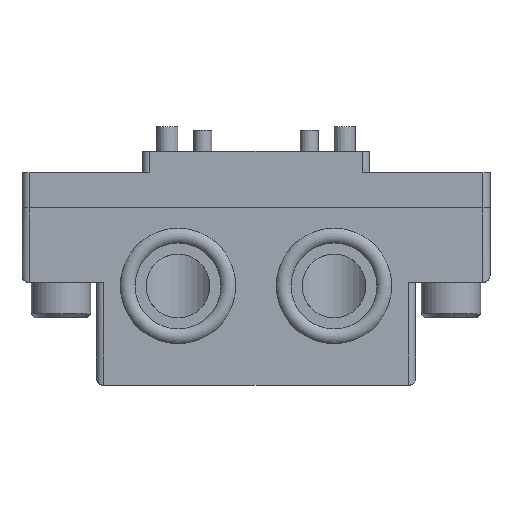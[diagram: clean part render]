
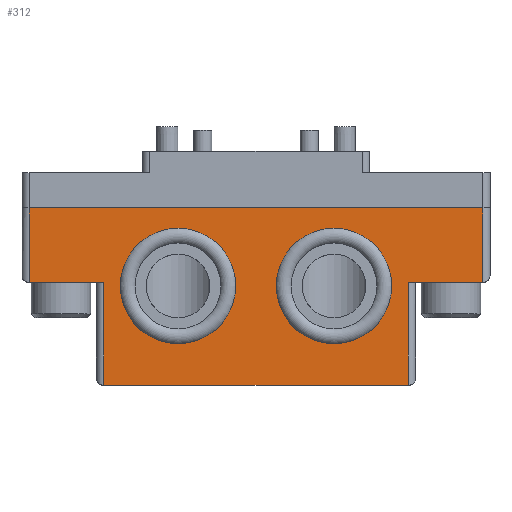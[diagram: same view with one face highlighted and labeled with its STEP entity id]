
A CAD part, top view. The second image highlights one B-rep face of the part: STEP entity #312.
In plain terms, the highlighted planar face has unit normal (0, 0, 1).
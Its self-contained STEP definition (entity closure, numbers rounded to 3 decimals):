
#312=ADVANCED_FACE('',(#717,#718,#719),#720,.T.);
#717=FACE_BOUND('',#1206,.T.);
#718=FACE_BOUND('',#1207,.T.);
#719=FACE_OUTER_BOUND('',#1208,.T.);
#720=PLANE('',#1209);
#1206=EDGE_LOOP('',(#2013));
#1207=EDGE_LOOP('',(#2014));
#1208=EDGE_LOOP('',(#2015,#2016,#2017,#2018,#2019,#2020,#2021,#2022));
#1209=AXIS2_PLACEMENT_3D('',#2023,#2024,#2025);
#2013=ORIENTED_EDGE('',*,*,#2459,.F.);
#2014=ORIENTED_EDGE('',*,*,#2474,.F.);
#2015=ORIENTED_EDGE('',*,*,#2655,.T.);
#2016=ORIENTED_EDGE('',*,*,#2682,.T.);
#2017=ORIENTED_EDGE('',*,*,#2677,.T.);
#2018=ORIENTED_EDGE('',*,*,#2661,.T.);
#2019=ORIENTED_EDGE('',*,*,#2610,.T.);
#2020=ORIENTED_EDGE('',*,*,#2584,.T.);
#2021=ORIENTED_EDGE('',*,*,#2514,.T.);
#2022=ORIENTED_EDGE('',*,*,#2457,.T.);
#2023=CARTESIAN_POINT('',(-33.0,-33.0,9.5));
#2024=DIRECTION('',(0.0,0.0,1.0));
#2025=DIRECTION('',(1.0,0.0,0.0));
#2457=EDGE_CURVE('',#2838,#2842,#2844,.T.);
#2459=EDGE_CURVE('',#2846,#2846,#2847,.T.);
#2474=EDGE_CURVE('',#2870,#2870,#2871,.T.);
#2514=EDGE_CURVE('',#2935,#2838,#2936,.T.);
#2584=EDGE_CURVE('',#3046,#2935,#3047,.T.);
#2610=EDGE_CURVE('',#3085,#3046,#3086,.T.);
#2655=EDGE_CURVE('',#2842,#3053,#3143,.T.);
#2661=EDGE_CURVE('',#3149,#3085,#3150,.T.);
#2677=EDGE_CURVE('',#3170,#3149,#3171,.T.);
#2682=EDGE_CURVE('',#3053,#3170,#3175,.T.);
#2838=VERTEX_POINT('',#3473);
#2842=VERTEX_POINT('',#3478);
#2844=LINE('',#3480,#3481);
#2846=VERTEX_POINT('',#3483);
#2847=CIRCLE('',#3484,8.139);
#2870=VERTEX_POINT('',#3515);
#2871=CIRCLE('',#3516,8.139);
#2935=VERTEX_POINT('',#3669);
#2936=LINE('',#3670,#3671);
#3046=VERTEX_POINT('',#3811);
#3047=LINE('',#3812,#3813);
#3053=VERTEX_POINT('',#3820);
#3085=VERTEX_POINT('',#3861);
#3086=LINE('',#3862,#3863);
#3143=LINE('',#3945,#3946);
#3149=VERTEX_POINT('',#3954);
#3150=LINE('',#3955,#3956);
#3170=VERTEX_POINT('',#3982);
#3171=LINE('',#3983,#3984);
#3175=LINE('',#3988,#3989);
#3473=CARTESIAN_POINT('',(-21.5,-18.5,9.5));
#3478=CARTESIAN_POINT('',(-21.5,-33.0,9.5));
#3480=CARTESIAN_POINT('',(-21.5,-33.0,9.5));
#3481=VECTOR('',#4255,1.0);
#3483=CARTESIAN_POINT('',(19.139,-19.0,9.5));
#3484=AXIS2_PLACEMENT_3D('',#4256,#4257,#4258);
#3515=CARTESIAN_POINT('',(-2.861,-19.0,9.5));
#3516=AXIS2_PLACEMENT_3D('',#4270,#4271,#4272);
#3669=CARTESIAN_POINT('',(-32.0,-18.5,9.5));
#3670=CARTESIAN_POINT('',(-33.0,-18.5,9.5));
#3671=VECTOR('',#4330,1.0);
#3811=CARTESIAN_POINT('',(-32.0,-8.0,9.5));
#3812=CARTESIAN_POINT('',(-32.0,-33.0,9.5));
#3813=VECTOR('',#4424,1.0);
#3820=CARTESIAN_POINT('',(21.5,-33.0,9.5));
#3861=CARTESIAN_POINT('',(32.0,-8.0,9.5));
#3862=CARTESIAN_POINT('',(33.0,-8.0,9.5));
#3863=VECTOR('',#4459,1.0);
#3945=CARTESIAN_POINT('',(-33.0,-33.0,9.5));
#3946=VECTOR('',#4491,1.0);
#3954=CARTESIAN_POINT('',(32.0,-18.5,9.5));
#3955=CARTESIAN_POINT('',(32.0,-8.0,9.5));
#3956=VECTOR('',#4494,1.0);
#3982=CARTESIAN_POINT('',(21.5,-18.5,9.5));
#3983=CARTESIAN_POINT('',(22.5,-18.5,9.5));
#3984=VECTOR('',#4510,1.0);
#3988=CARTESIAN_POINT('',(21.5,-33.0,9.5));
#3989=VECTOR('',#4514,1.0);
#4255=DIRECTION('',(0.0,-1.0,0.0));
#4256=CARTESIAN_POINT('',(11.0,-19.0,9.5));
#4257=DIRECTION('',(0.0,0.0,1.0));
#4258=DIRECTION('',(1.0,0.0,0.0));
#4270=CARTESIAN_POINT('',(-11.,-19.0,9.5));
#4271=DIRECTION('',(0.0,0.0,1.0));
#4272=DIRECTION('',(1.0,0.0,0.0));
#4330=DIRECTION('',(1.0,0.0,0.0));
#4424=DIRECTION('',(0.0,-1.0,0.0));
#4459=DIRECTION('',(-1.0,0.0,0.0));
#4491=DIRECTION('',(1.0,0.0,0.0));
#4494=DIRECTION('',(0.0,1.0,0.0));
#4510=DIRECTION('',(1.0,0.0,0.0));
#4514=DIRECTION('',(0.0,1.0,0.0));
